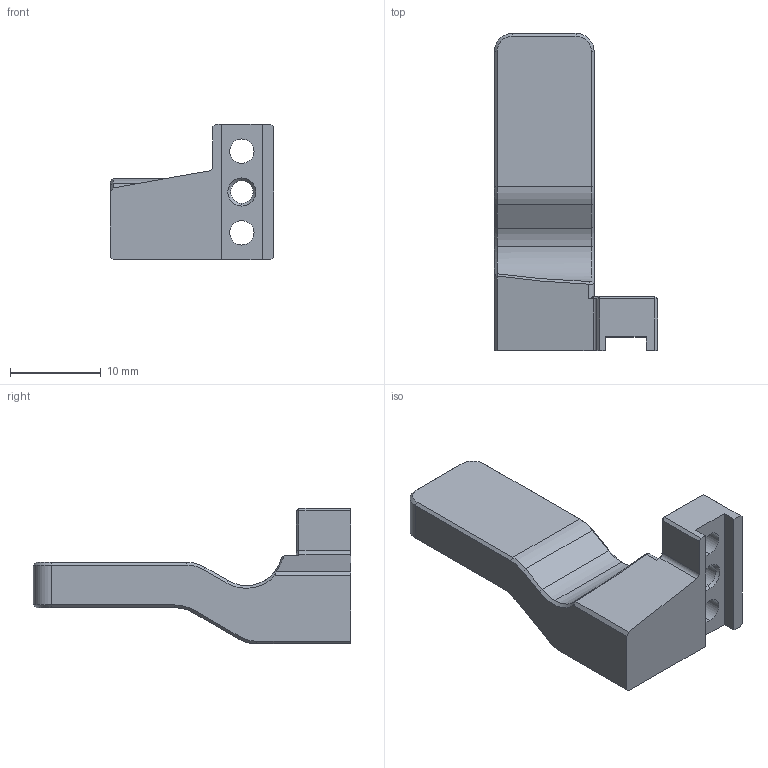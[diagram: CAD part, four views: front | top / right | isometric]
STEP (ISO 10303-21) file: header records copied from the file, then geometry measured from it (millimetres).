
FILE_DESCRIPTION (( 'STEP AP214' ), '1' );
FILE_NAME ('EPG08000020忒硌.STEP', '2021-10-25T11:21:09', ( 'User' ), ( 'China' ), 'SwSTEP 2.0', 'SolidWorks 2016', '' );
FILE_SCHEMA (( 'AUTOMOTIVE_DESIGN' ));
Length unit declared in the file: millimetre
Products named in the file (1): EPG08000020忒硌
Bounding box: 18 x 35 x 15 mm (x, y, z)
Volume: 2827.1 mm3; surface area: 1800.3 mm2
Topology: 1 solids, 1 shells, 76 faces, 180 edges, 106 vertices
Faces by surface type: plane 43, cone 16, cylinder 15, bspline 2
Entity records: 2326 total; most frequent: CARTESIAN_POINT 536, DIRECTION 366, ORIENTED_EDGE 360, EDGE_CURVE 180, LINE 126, VECTOR 126, AXIS2_PLACEMENT_3D 120, VERTEX_POINT 106
